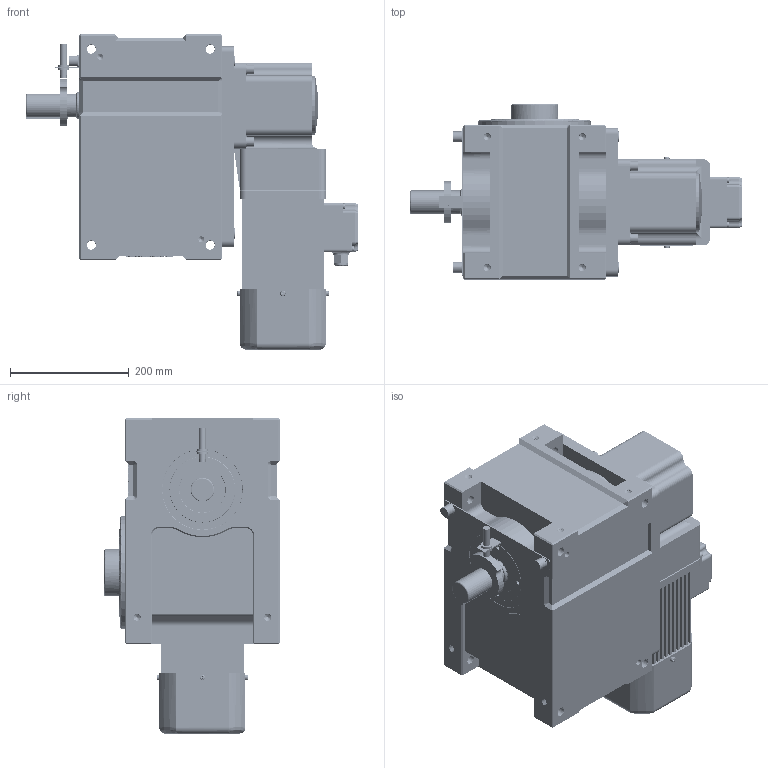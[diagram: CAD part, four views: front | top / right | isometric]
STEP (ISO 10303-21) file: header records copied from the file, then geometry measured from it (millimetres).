
FILE_DESCRIPTION (( 'STEP AP214' ), '1' );
FILE_NAME ('ER-RU140DF英锐凸轮分割器壳体法兰面销孔3D水平直联式右侧JY(电话15062628977)AA.STEP', '2022-11-10T08:27:30', ( '微软用户' ), ( '微软中国' ), 'SwSTEP 2.0', 'SolidWorks 2017', '' );
FILE_SCHEMA (( 'AUTOMOTIVE_DESIGN' ));
Length unit declared in the file: millimetre
Products named in the file (1): ER-RU140DF英锐凸轮分割器壳体法兰面销孔3D水平直联式右侧JY(电话15062628977)AA
Bounding box: 559 x 295 x 531 mm (x, y, z)
Volume: 32199069.9 mm3; surface area: 1367538.4 mm2
Topology: 3 solids, 10 shells, 3183 faces, 8648 edges, 5572 vertices
Faces by surface type: plane 1546, cylinder 907, bspline 515, cone 211, torus 4
Entity records: 220441 total; most frequent: CARTESIAN_POINT 126413, ORIENTED_EDGE 17172, DIRECTION 12229, EDGE_CURVE 8586, VERTEX_POINT 5572, VECTOR 5345, LINE 5345, AXIS2_PLACEMENT_3D 3442
